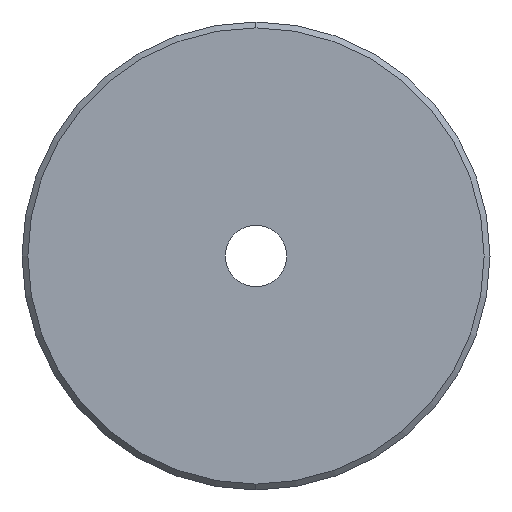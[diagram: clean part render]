
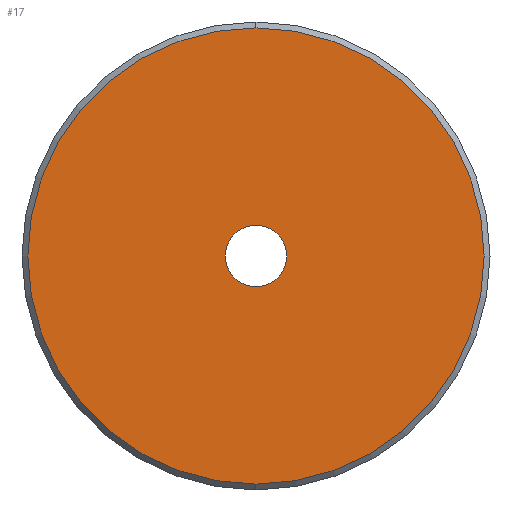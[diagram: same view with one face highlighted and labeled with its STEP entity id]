
A CAD part, left-side view. The second image highlights one B-rep face of the part: STEP entity #17.
In plain terms, the highlighted planar face has unit normal (-1, 0, 0).
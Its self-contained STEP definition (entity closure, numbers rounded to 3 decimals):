
#15 = CIRCLE ( 'NONE', #200, 39. ) ;
#17 = ADVANCED_FACE ( 'NONE', ( #357, #45 ), #325, .T. ) ;
#19 = DIRECTION ( 'NONE',  ( -1., 0., 0. ) ) ;
#21 = DIRECTION ( 'NONE',  ( -1., 0., 0. ) ) ;
#27 = VERTEX_POINT ( 'NONE', #265 ) ;
#44 = ORIENTED_EDGE ( 'NONE', *, *, #143, .T. ) ;
#45 = FACE_BOUND ( 'NONE', #177, .T. ) ;
#46 = DIRECTION ( 'NONE',  ( 0., 0., 1. ) ) ;
#65 = DIRECTION ( 'NONE',  ( 0., 0., -1. ) ) ;
#66 = CARTESIAN_POINT ( 'NONE',  ( 0., 0., -5.25 ) ) ;
#71 = CARTESIAN_POINT ( 'NONE',  ( 0., 0., 5.25 ) ) ;
#78 = EDGE_CURVE ( 'NONE', #327, #304, #89, .T. ) ;
#89 = CIRCLE ( 'NONE', #250, 5.25 ) ;
#113 = ORIENTED_EDGE ( 'NONE', *, *, #78, .T. ) ;
#119 = CARTESIAN_POINT ( 'NONE',  ( 0., 0., 0. ) ) ;
#134 = EDGE_CURVE ( 'NONE', #304, #327, #224, .T. ) ;
#138 = CARTESIAN_POINT ( 'NONE',  ( 0., 0., 0. ) ) ;
#143 = EDGE_CURVE ( 'NONE', #232, #27, #15, .T. ) ;
#177 = EDGE_LOOP ( 'NONE', ( #314, #113 ) ) ;
#198 = DIRECTION ( 'NONE',  ( 1., 0., 0. ) ) ;
#200 = AXIS2_PLACEMENT_3D ( 'NONE', #119, #21, #46 ) ;
#203 = DIRECTION ( 'NONE',  ( 0., 0., 1. ) ) ;
#216 = AXIS2_PLACEMENT_3D ( 'NONE', #138, #273, #389 ) ;
#224 = CIRCLE ( 'NONE', #216, 5.25 ) ;
#228 = DIRECTION ( 'NONE',  ( -1., 0., 0. ) ) ;
#232 = VERTEX_POINT ( 'NONE', #276 ) ;
#250 = AXIS2_PLACEMENT_3D ( 'NONE', #340, #198, #65 ) ;
#259 = CARTESIAN_POINT ( 'NONE',  ( 0., 0., 0. ) ) ;
#260 = ORIENTED_EDGE ( 'NONE', *, *, #366, .T. ) ;
#264 = AXIS2_PLACEMENT_3D ( 'NONE', #259, #228, #287 ) ;
#265 = CARTESIAN_POINT ( 'NONE',  ( 0., 0., 39. ) ) ;
#273 = DIRECTION ( 'NONE',  ( 1., 0., 0. ) ) ;
#276 = CARTESIAN_POINT ( 'NONE',  ( 0., 0., -39. ) ) ;
#282 = AXIS2_PLACEMENT_3D ( 'NONE', #298, #19, #203 ) ;
#287 = DIRECTION ( 'NONE',  ( 0., 0., 1. ) ) ;
#298 = CARTESIAN_POINT ( 'NONE',  ( 0., 0., 0. ) ) ;
#304 = VERTEX_POINT ( 'NONE', #66 ) ;
#314 = ORIENTED_EDGE ( 'NONE', *, *, #134, .T. ) ;
#325 = PLANE ( 'NONE',  #282 ) ;
#327 = VERTEX_POINT ( 'NONE', #71 ) ;
#336 = CIRCLE ( 'NONE', #264, 39. ) ;
#340 = CARTESIAN_POINT ( 'NONE',  ( 0., 0., 0. ) ) ;
#357 = FACE_OUTER_BOUND ( 'NONE', #384, .T. ) ;
#366 = EDGE_CURVE ( 'NONE', #27, #232, #336, .T. ) ;
#384 = EDGE_LOOP ( 'NONE', ( #44, #260 ) ) ;
#389 = DIRECTION ( 'NONE',  ( 0., 0., -1. ) ) ;
